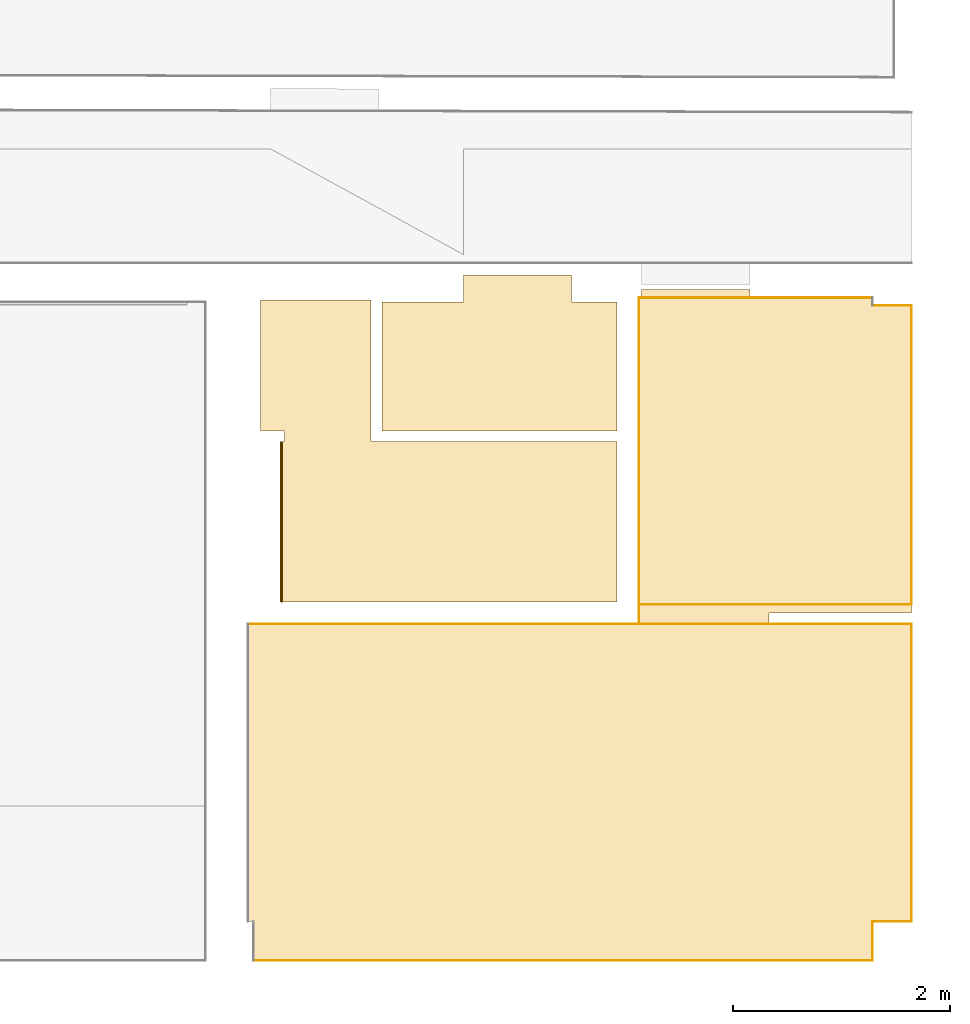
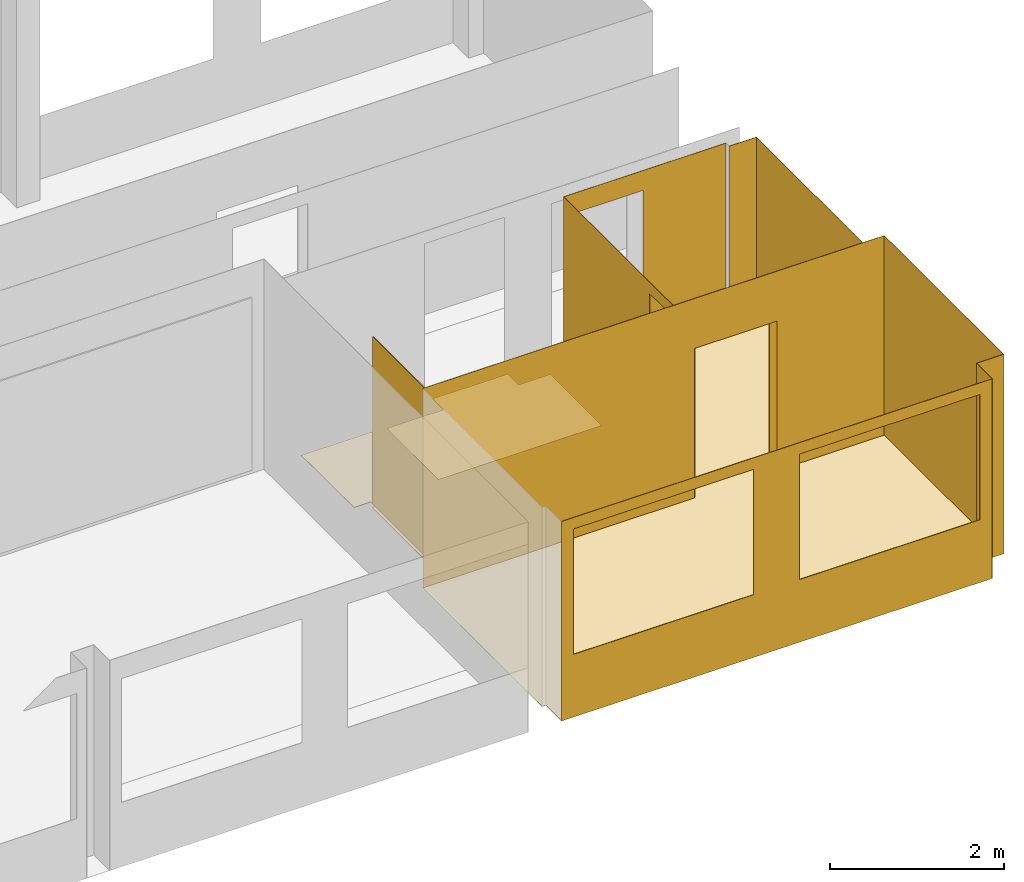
# One storey, part 12 of 16: 14 coverings, 6 openings.
"""IFC2X3 building model written with IfcOpenShell, lengths in millimetres."""

from ifc_helpers import new_model, entity, si_unit, converted_unit, derived_unit, money_unit, direction, frame, origin_with_axes, origin_2d_with_axis, place, context, subcontext, project, spatial, polyline, rectangle, outline, extrude, material, type_object, element, save


model = new_model("IFC2X3")

# Units and contexts
model_context = context("Model", 3, precision=0.01, world=origin_with_axes(), true_north=direction((0.0, 1.0)))
body_context = subcontext(model_context, "Body", "Model", "MODEL_VIEW")
ifc_project = project(units=[si_unit("LENGTHUNIT", "METRE", prefix="MILLI"), si_unit("AREAUNIT", "SQUARE_METRE"), si_unit("VOLUMEUNIT", "CUBIC_METRE"), converted_unit("PLANEANGLEUNIT", "DEGREE", entity("IfcPlaneAngleMeasure", 0.0174532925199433), si_unit("PLANEANGLEUNIT", "RADIAN"), dimensions=[0, 0, 0, 0, 0, 0, 0]), money_unit("EUR"), converted_unit("TIMEUNIT", "Year", entity("IfcTimeMeasure", 31556926.0), si_unit("TIMEUNIT", "SECOND"), dimensions=[0, 0, 1, 0, 0, 0, 0]), si_unit("MASSUNIT", "GRAM", prefix="KILO"), si_unit("THERMODYNAMICTEMPERATUREUNIT", "DEGREE_CELSIUS"), si_unit("LUMINOUSINTENSITYUNIT", "LUMEN"), si_unit("ENERGYUNIT", "JOULE", prefix="MEGA"), derived_unit("THERMALCONDUCTANCEUNIT", [(si_unit("POWERUNIT", "WATT"), 1), (si_unit("LENGTHUNIT", "METRE"), -1), (si_unit("THERMODYNAMICTEMPERATUREUNIT", "KELVIN"), -1)]), derived_unit("SPECIFICHEATCAPACITYUNIT", [(si_unit("ENERGYUNIT", "JOULE"), 1), (si_unit("MASSUNIT", "GRAM", prefix="KILO"), -1), (si_unit("THERMODYNAMICTEMPERATUREUNIT", "KELVIN"), -1)]), derived_unit("MASSDENSITYUNIT", [(si_unit("MASSUNIT", "GRAM", prefix="KILO"), 1), (si_unit("VOLUMEUNIT", "CUBIC_METRE"), -1)])], contexts=[model_context])

# Site, building, storey
site_placement = place(None, origin_with_axes())
site = spatial("IfcSite", under=ifc_project, at=site_placement, Name="Paldiski mnt 245/1, Tallinn, Harjumaa", CompositionType="COMPLEX")
building_placement = place(site_placement, origin_with_axes())
building = spatial("IfcBuilding", under=site, at=building_placement, Name="RKAS Hoone üldnimetus (kasutust iseloomustav) -> IFC Project Manager -> SOLIBRI", CompositionType="ELEMENT")
storey_placement = place(building_placement, frame((0.0, 0.0, 3300.0), z_axis=(0.0, 0.0, 1.0), x_axis=(1.0, 0.0, 0.0)))
storey = spatial("IfcBuildingStorey", under=building, at=storey_placement, Name="Teine korrus", CompositionType="ELEMENT", Elevation=3300.0)

# Coverings
ifc_material_1 = material(Name="SA- PM-2 vinüül hex")
covering_type_1 = type_object("IfcCoveringType", Name="SA- PM-2 vinüül hex 3", PredefinedType="FLOORING")
covering_1_placement = place(storey_placement, frame((-18550.00023689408, -9399.823740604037, 0.0), z_axis=(0.0, 0.0, 1.0), x_axis=(1.0, 0.0, 0.0)))
element("IfcCovering", 1, at=covering_1_placement, inside=storey, type_object=covering_type_1, material=ifc_material_1, Name="PM-2", PredefinedType="FLOORING", context=body_context, shape_type="SweptSolid", body=[
    extrude(outline(polyline([(0.0, 0.0), (0.0002321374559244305, 100.0000126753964), (1320.000224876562, 100.0000057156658), (1320.000236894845, 2939.823726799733), (960.0002349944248, 2939.82374437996), (960.0002385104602, 3011.823740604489), (-174.9997631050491, 3011.82374060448), (-174.9997631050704, 3084.739652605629), (-1174.999763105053, 3086.739652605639), (-1174.999763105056, 3024.823733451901), (-1199.999778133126, 3024.823728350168), (-1199.999763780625, 0.002785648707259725), (-4809.999846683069, -5.968558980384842e-10), (-4809.999846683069, -2750.26034645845), (-4759.999763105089, -2750.260346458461), (-4759.999763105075, -3110.260346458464), (960.0002368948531, -3110.260560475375), (960.0002368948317, -2750.26056047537), (1320.000236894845, -2750.260560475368), (1320.000236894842, -5.506706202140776e-10), (0.0, 0.0)])), origin_with_axes(), (0.0, 0.0, 1.0), 3.0),
])
ifc_material_2 = material(Name="SA- PM-7 plaat 15x15")
covering_type_2 = type_object("IfcCoveringType", Name="SA- PM-7 plaat 15x15 4", PredefinedType="FLOORING")
covering_2_placement = place(storey_placement, frame((-22120.75907491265, -7618.963395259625, 0.0), z_axis=(0.0, 0.0, 1.0), x_axis=(1.0, 0.0, 0.0)))
element("IfcCovering", 2, at=covering_2_placement, inside=storey, type_object=covering_type_2, material=ifc_material_2, Name="PM-7", PredefinedType="FLOORING", context=body_context, shape_type="SweptSolid", body=[
    extrude(outline(polyline([(0.0, 0.0), (2170.759074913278, 0.0), (2170.759074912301, 1188.963395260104), (1750.759074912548, 1188.963395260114), (1750.759074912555, 1438.963395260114), (750.7590749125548, 1438.963395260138), (750.7590749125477, 1188.963395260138), (0.999999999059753, 1188.963395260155), (0.0, 0.0)])), origin_with_axes(), (0.0, 0.0, 1.0), 4.0),
])
covering_type_3 = type_object("IfcCoveringType", Name="SA- PM-7 plaat 15x15 8", PredefinedType="FLOORING")
covering_3_placement = place(storey_placement, frame((-23059.99999999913, -9199.823740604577, 0.0), z_axis=(0.0, 0.0, 1.0), x_axis=(1.0, 0.0, 0.0)))
element("IfcCovering", 3, at=covering_3_placement, inside=storey, type_object=covering_type_3, material=ifc_material_2, Name="PM-7", PredefinedType="FLOORING", context=body_context, shape_type="SweptSolid", body=[
    extrude(outline(polyline([(0.0, 0.0), (3109.999999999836, 0.0), (3109.99999999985, 1480.860345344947), (839.2409250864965, 1480.860345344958), (839.2409250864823, 2789.739652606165), (-183.8492349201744, 2789.739652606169), (-180.0000000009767, 1579.860345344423), (40.24092508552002, 1579.860345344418), (39.24092508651, 1480.860374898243), (0.0, 1480.860345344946), (0.0, 0.0)])), origin_with_axes(), (0.0, 0.0, 1.0), 8.0),
])
ifc_material_3 = material(Name="SA- Laminaat SM2(kollane laminaat)")
covering_type_4 = type_object("IfcCoveringType", Name="SA- Laminaat SM2(kollane laminaat) Polygonal", PredefinedType="CLADDING")
covering_4_placement = place(storey_placement, frame((-23051.99999999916, -7719.96339526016, 49.99999999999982), z_axis=(0.0, 0.0, 1.0), x_axis=(0.0, -1.0, 0.0)))
element("IfcCovering", 4, at=covering_4_placement, inside=storey, type_object=covering_type_4, material=ifc_material_3, Name="SM2", PredefinedType="CLADDING", context=body_context, shape_type="SweptSolid", body=[
    extrude(outline(polyline([(0.0, 0.0), (1479.860345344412, 0.0), (1479.860345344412, 12.00000000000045), (0.0, 12.00000000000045), (0.0, 0.0)])), origin_with_axes(), (0.0, 0.0, 1.0), 2350.0),
])
ifc_material_4 = material(Name="SA- Värv SM5(valge)")
covering_type_5 = type_object("IfcCoveringType", Name="SA- Värv SM5(valge) 5", PredefinedType="CLADDING")
covering_5_placement = place(storey_placement, frame((-17230.00000000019, -6459.999999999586, 0.0), z_axis=(0.0, 0.0, 1.0), x_axis=(-1.0, 0.0, 0.0)))
element("IfcCovering", 5, at=covering_5_placement, inside=storey, type_object=covering_type_5, material=ifc_material_4, Name="SM5", PredefinedType="CLADDING", context=body_context, shape_type="SweptSolid", body=[
    extrude(outline(polyline([(0.0, 0.0), (359.9999999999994, 0.0), (365.0000049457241, 4.999999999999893), (0.0, 4.999999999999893), (0.0, 0.0)])), origin_with_axes(), (0.0, 0.0, 1.0), 2400.0),
])
covering_6_placement = place(storey_placement, frame((-17230.00000000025, -9223.823740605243, 0.0), z_axis=(0.0, 0.0, 1.0), x_axis=(0.0, 1.0, 0.0)))
element("IfcCovering", 6, at=covering_6_placement, inside=storey, type_object=covering_type_5, material=ifc_material_4, Name="SM5", PredefinedType="CLADDING", context=body_context, shape_type="SweptSolid", body=[
    extrude(outline(polyline([(0.0, 0.0), (2763.823740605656, 0.0), (2763.823740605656, 4.999999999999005), (0.0, 4.999999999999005), (0.0, 0.0)])), origin_with_axes(), (0.0, 0.0, 1.0), 2400.0),
])
covering_7_placement = place(storey_placement, frame((-17230.00000000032, -12150.08430108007, 0.0), z_axis=(0.0, 0.0, 1.0), x_axis=(0.0, 1.0, 0.0)))
element("IfcCovering", 7, at=covering_7_placement, inside=storey, type_object=covering_type_5, material=ifc_material_4, Name="SM5", PredefinedType="CLADDING", context=body_context, shape_type="SweptSolid", body=[
    extrude(outline(polyline([(0.0, 0.0), (2750.26056047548, 0.0), (2750.26056047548, 4.999999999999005), (0.0, 4.999999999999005), (0.0, 0.0)])), origin_with_axes(), (0.0, 0.0, 1.0), 2800.0),
])
covering_8_placement = place(storey_placement, frame((-17590.00000000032, -12150.08430108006, 0.0), z_axis=(0.0, 0.0, 1.0), x_axis=(1.0, 0.0, 0.0)))
element("IfcCovering", 8, at=covering_8_placement, inside=storey, type_object=covering_type_5, material=ifc_material_4, Name="SM5", PredefinedType="CLADDING", context=body_context, shape_type="SweptSolid", body=[
    extrude(outline(polyline([(0.0, 0.0), (360.0000000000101, 0.0), (360.0000000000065, 5.000000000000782), (-4.999999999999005, 4.999999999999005), (0.0, 0.0)])), origin_with_axes(), (0.0, 0.0, 1.0), 2800.0),
])
covering_9_placement = place(storey_placement, frame((-17590.00000000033, -12510.08430108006, 0.0), z_axis=(0.0, 0.0, 1.0), x_axis=(0.0, 1.0, 0.0)))
element("IfcCovering", 9, at=covering_9_placement, inside=storey, type_object=covering_type_5, material=ifc_material_4, Name="SM5", PredefinedType="CLADDING", context=body_context, shape_type="SweptSolid", body=[
    extrude(outline(polyline([(0.0, 0.0), (359.9999999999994, 0.0), (364.9999999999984, 5.000000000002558), (0.0, 4.999999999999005), (0.0, 0.0)])), origin_with_axes(), (0.0, 0.0, 1.0), 2800.0),
])

# Covering, openings
covering_10_placement = place(storey_placement, frame((-23310.00000000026, -12510.08408706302, 0.0), z_axis=(0.0, 0.0, 1.0), x_axis=(0.9999999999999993, -3.741556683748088e-08, 0.0)))
covering_10 = element("IfcCovering", 10, at=covering_10_placement, inside=storey, type_object=covering_type_5, material=ifc_material_4, Name="SM5", PredefinedType="CLADDING", context=body_context, shape_type="SweptSolid", body=[
    extrude(outline(polyline([(0.0, 0.0), (5719.999999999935, 0.0), (5719.999999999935, 5.000000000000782), (0.0, 5.000000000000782), (0.0, 0.0)])), origin_with_axes(), (0.0, 0.0, 1.0), 2800.0),
])
opening_1_placement = place(covering_10_placement, frame((23309.99953192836, 12510.08495921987, -3300.0), z_axis=(0.0, 0.0, 1.0), x_axis=(0.9999999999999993, 3.741556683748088e-08, 0.0)))
element("IfcOpeningElement", 11, at=opening_1_placement, cuts=covering_10, Name="AVA", ObjectType="OPENING", context=body_context, shape_type="SweptSolid", body=[
    extrude(rectangle(XDim=2390.779787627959, YDim=1760.09527970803, at=origin_2d_with_axis()), frame((-21956.90034462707, -12515.0845150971, 5059.952360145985), z_axis=(-3.741556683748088e-08, -0.9999999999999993, 0.0), x_axis=(0.9999999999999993, -3.741556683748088e-08, 0.0)), (0.0, 0.0, -1.0), 15.00064205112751),
])
opening_2_placement = place(covering_10_placement, frame((23309.99953192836, 12510.08495921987, -3300.0), z_axis=(0.0, 0.0, 1.0), x_axis=(0.9999999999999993, 3.741556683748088e-08, 0.0)))
element("IfcOpeningElement", 12, at=opening_2_placement, cuts=covering_10, Name="AVA", ObjectType="OPENING", context=body_context, shape_type="SweptSolid", body=[
    extrude(rectangle(XDim=2390.779787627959, YDim=1760.09527970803, at=origin_2d_with_axis()), frame((-18954.28087521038, -12515.0845150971, 5059.952360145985), z_axis=(-3.741556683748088e-08, -0.9999999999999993, 0.0), x_axis=(0.9999999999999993, -3.741556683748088e-08, 0.0)), (0.0, 0.0, -1.0), 15.00064205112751),
])

# Covering, opening
covering_11_placement = place(storey_placement, frame((-17589.99992878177, -6388.000001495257, 0.0), z_axis=(0.0, 0.0, 1.0), x_axis=(-1.0, 6.924682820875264e-10, 0.0)))
covering_11 = element("IfcCovering", 13, at=covering_11_placement, inside=storey, type_object=covering_type_5, material=ifc_material_4, Name="SM5", PredefinedType="CLADDING", context=body_context, shape_type="SweptSolid", body=[
    extrude(outline(polyline([(0.0, 0.0), (2160.00007121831, 0.0), (2160.000071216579, 4.999999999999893), (5.000004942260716, 4.999999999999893), (0.0, 0.0)])), origin_with_axes(), (0.0, 0.0, 1.0), 2400.0),
])
opening_3_placement = place(covering_11_placement, frame((-17589.99992435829, -6388.000013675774, -3300.0), z_axis=(0.0, 0.0, 1.0), x_axis=(-1.0, -6.924682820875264e-10, 0.0)))
element("IfcOpeningElement", 14, at=opening_3_placement, cuts=covering_11, Name="AVA", ObjectType="OPENING", context=body_context, shape_type="SweptSolid", body=[
    extrude(rectangle(XDim=1068.505153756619, YDim=2191.376327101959, at=origin_2d_with_axis()), frame((-19231.67218635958, -6382.999998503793, 4325.47601766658), z_axis=(6.924682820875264e-10, 1.0, 0.0), x_axis=(-1.0, 6.924682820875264e-10, 0.0)), (0.0, 0.0, -1.0), 15.00000448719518),
])

ifc_material_5 = material(Name="SA- Värv SM7(beez)")
covering_type_6 = type_object("IfcCoveringType", Name="SA- Värv SM7(beez) 5", PredefinedType="CLADDING")
covering_12_placement = place(storey_placement, frame((-23360.00000000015, -9399.8237406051, 0.0), z_axis=(0.0, 0.0, 1.0), x_axis=(1.0, 0.0, 0.0)))
covering_12 = element("IfcCovering", 15, at=covering_12_placement, inside=storey, type_object=covering_type_6, material=ifc_material_5, Name="SM7", PredefinedType="CLADDING", context=body_context, shape_type="SweptSolid", body=[
    extrude(outline(polyline([(4.999999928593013, -5.000000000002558), (6129.9999999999, -5.000000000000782), (6129.9999999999, 0.0), (5.000000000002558, 0.0), (4.999999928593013, -5.000000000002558)])), origin_with_axes(), (0.0, 0.0, 1.0), 2800.0),
])
opening_4_placement = place(covering_12_placement, frame((23360.00000000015, 9399.8237406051, -3300.0), z_axis=(0.0, 0.0, 1.0), x_axis=(1.0, 0.0, 0.0)))
element("IfcOpeningElement", 16, at=opening_4_placement, cuts=covering_12, Name="AVA", ObjectType="OPENING", context=body_context, shape_type="SweptSolid", body=[
    extrude(rectangle(XDim=1095.000000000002, YDim=2100.0, at=origin_2d_with_axis()), frame((-19202.50000000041, -9409.82374060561, 4350.0), z_axis=(0.0, -1.0, 0.0), x_axis=(1.0, 0.0, 0.0)), (0.0, 0.0, -1.0), 15.00000000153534),
])

covering_13_placement = place(storey_placement, frame((-17230.00000000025, -9223.823740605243, 0.0), z_axis=(0.0, 0.0, 1.0), x_axis=(-1.0, 0.0, 0.0)))
covering_13 = element("IfcCovering", 17, at=covering_13_placement, inside=storey, type_object=covering_type_6, material=ifc_material_5, Name="SM7", PredefinedType="CLADDING", context=body_context, shape_type="SweptSolid", body=[
    extrude(outline(polyline([(0.0, -5.000000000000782), (2515.00000000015, -5.000000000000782), (2515.00000000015, 0.0), (0.0, 0.0), (0.0, -5.000000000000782)])), origin_with_axes(), (0.0, 0.0, 1.0), 2400.0),
])
opening_5_placement = place(covering_13_placement, frame((-17230.00000000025, -9223.823740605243, -3300.0), z_axis=(0.0, 0.0, 1.0), x_axis=(-1.0, 0.0, 0.0)))
element("IfcOpeningElement", 18, at=opening_5_placement, cuts=covering_13, Name="AVA", ObjectType="OPENING", context=body_context, shape_type="SweptSolid", body=[
    extrude(rectangle(XDim=1075.999999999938, YDim=2100.0, at=origin_2d_with_axis()), frame((-19193.00000000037, -9213.823740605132, 4350.0), z_axis=(0.0, 1.0, 0.0), x_axis=(-1.0, 0.0, 0.0)), (0.0, 0.0, -1.0), 15.00000000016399),
])

covering_14_placement = place(storey_placement, frame((-19750.00000000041, -9399.823740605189, 0.0), z_axis=(0.0, 0.0, 1.0), x_axis=(0.0, 1.0, 0.0)))
covering_14 = element("IfcCovering", 19, at=covering_14_placement, inside=storey, type_object=covering_type_6, material=ifc_material_5, Name="SM7", PredefinedType="CLADDING", context=body_context, shape_type="SweptSolid", body=[
    extrude(outline(polyline([(3.943512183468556e-10, -4.999999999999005), (3006.823740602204, -4.999999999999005), (3006.823740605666, 0.0), (3.925748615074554e-10, 0.0), (3.943512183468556e-10, -4.999999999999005)])), origin_with_axes(), (0.0, 0.0, 1.0), 2400.0),
])
opening_6_placement = place(covering_14_placement, frame((9399.823740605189, -19750.00000000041, -3300.0), z_axis=(0.0, 0.0, 1.0), x_axis=(0.0, -1.0, 0.0)))
element("IfcOpeningElement", 20, at=opening_6_placement, cuts=covering_14, Name="AVA", ObjectType="OPENING", context=body_context, shape_type="SweptSolid", body=[
    extrude(rectangle(XDim=862.6353965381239, YDim=2239.654270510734, at=origin_2d_with_axis()), frame((-19739.99999999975, -8799.868589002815, 4419.827135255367), z_axis=(1.0, 0.0, 0.0), x_axis=(0.0, 1.0, 0.0)), (0.0, 0.0, -1.0), 15.00000000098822),
])

save(model, "model.ifc")
